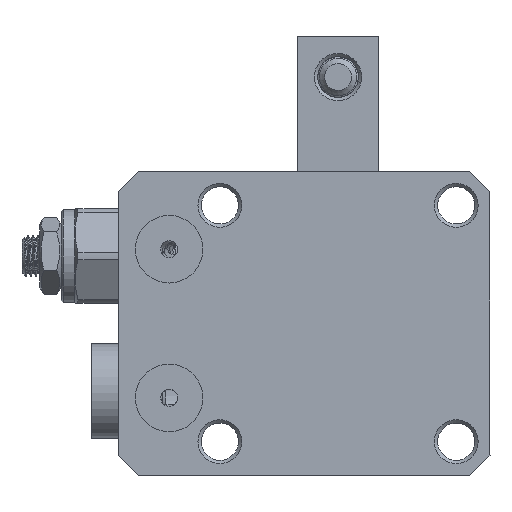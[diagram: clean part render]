
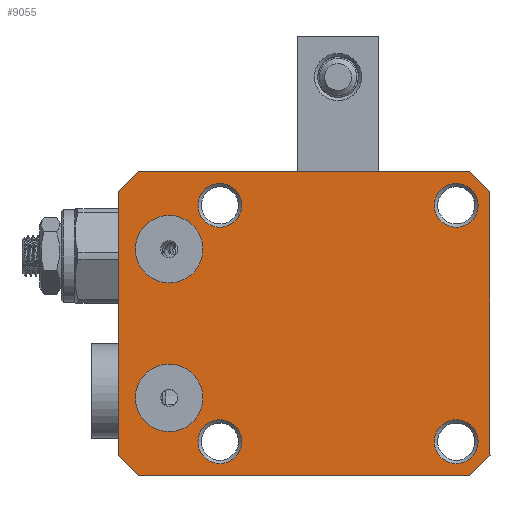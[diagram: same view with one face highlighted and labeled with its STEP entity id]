
A CAD part, front view. The second image highlights one B-rep face of the part: STEP entity #9055.
In plain terms, the highlighted planar face has unit normal (0, -1, 0).
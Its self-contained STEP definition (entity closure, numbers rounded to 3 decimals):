
#657=FACE_BOUND('',#1483,.T.);
#658=FACE_BOUND('',#1484,.T.);
#659=FACE_BOUND('',#1485,.T.);
#660=FACE_BOUND('',#1486,.T.);
#661=FACE_BOUND('',#1487,.T.);
#662=FACE_BOUND('',#1488,.T.);
#737=PLANE('',#9875);
#938=FACE_OUTER_BOUND('',#1482,.T.);
#1482=EDGE_LOOP('',(#6239,#6240,#6241,#6242,#6243,#6244,#6245,#6246));
#1483=EDGE_LOOP('',(#6247));
#1484=EDGE_LOOP('',(#6248));
#1485=EDGE_LOOP('',(#6249));
#1486=EDGE_LOOP('',(#6250));
#1487=EDGE_LOOP('',(#6251));
#1488=EDGE_LOOP('',(#6252));
#2101=LINE('',#13840,#2692);
#2102=LINE('',#13843,#2693);
#2103=LINE('',#13845,#2694);
#2104=LINE('',#13847,#2695);
#2105=LINE('',#13849,#2696);
#2106=LINE('',#13851,#2697);
#2107=LINE('',#13853,#2698);
#2108=LINE('',#13854,#2699);
#2692=VECTOR('',#11066,1000.);
#2693=VECTOR('',#11069,1000.);
#2694=VECTOR('',#11070,1000.);
#2695=VECTOR('',#11071,1000.);
#2696=VECTOR('',#11072,1000.);
#2697=VECTOR('',#11073,1000.);
#2698=VECTOR('',#11074,1000.);
#2699=VECTOR('',#11075,1000.);
#3239=CIRCLE('',#9804,5.);
#3241=CIRCLE('',#9807,5.);
#3244=CIRCLE('',#9811,3.25);
#3247=CIRCLE('',#9815,3.25);
#3250=CIRCLE('',#9819,3.25);
#3253=CIRCLE('',#9823,3.25);
#3737=VERTEX_POINT('',#13505);
#3739=VERTEX_POINT('',#13511);
#3742=VERTEX_POINT('',#13519);
#3745=VERTEX_POINT('',#13527);
#3748=VERTEX_POINT('',#13535);
#3751=VERTEX_POINT('',#13543);
#3796=VERTEX_POINT('',#13822);
#3804=VERTEX_POINT('',#13838);
#3805=VERTEX_POINT('',#13842);
#3806=VERTEX_POINT('',#13844);
#3807=VERTEX_POINT('',#13846);
#3808=VERTEX_POINT('',#13848);
#3809=VERTEX_POINT('',#13850);
#3810=VERTEX_POINT('',#13852);
#4667=EDGE_CURVE('',#3737,#3737,#3239,.T.);
#4670=EDGE_CURVE('',#3739,#3739,#3241,.T.);
#4674=EDGE_CURVE('',#3742,#3742,#3244,.T.);
#4678=EDGE_CURVE('',#3745,#3745,#3247,.T.);
#4682=EDGE_CURVE('',#3748,#3748,#3250,.T.);
#4686=EDGE_CURVE('',#3751,#3751,#3253,.T.);
#4758=EDGE_CURVE('',#3796,#3804,#2101,.T.);
#4759=EDGE_CURVE('',#3805,#3796,#2102,.T.);
#4760=EDGE_CURVE('',#3804,#3806,#2103,.T.);
#4761=EDGE_CURVE('',#3806,#3807,#2104,.T.);
#4762=EDGE_CURVE('',#3807,#3808,#2105,.T.);
#4763=EDGE_CURVE('',#3808,#3809,#2106,.T.);
#4764=EDGE_CURVE('',#3809,#3810,#2107,.T.);
#4765=EDGE_CURVE('',#3810,#3805,#2108,.T.);
#6239=ORIENTED_EDGE('',*,*,#4759,.T.);
#6240=ORIENTED_EDGE('',*,*,#4758,.T.);
#6241=ORIENTED_EDGE('',*,*,#4760,.T.);
#6242=ORIENTED_EDGE('',*,*,#4761,.T.);
#6243=ORIENTED_EDGE('',*,*,#4762,.T.);
#6244=ORIENTED_EDGE('',*,*,#4763,.T.);
#6245=ORIENTED_EDGE('',*,*,#4764,.T.);
#6246=ORIENTED_EDGE('',*,*,#4765,.T.);
#6247=ORIENTED_EDGE('',*,*,#4667,.T.);
#6248=ORIENTED_EDGE('',*,*,#4670,.T.);
#6249=ORIENTED_EDGE('',*,*,#4674,.T.);
#6250=ORIENTED_EDGE('',*,*,#4678,.T.);
#6251=ORIENTED_EDGE('',*,*,#4682,.T.);
#6252=ORIENTED_EDGE('',*,*,#4686,.T.);
#9055=ADVANCED_FACE('',(#938,#657,#658,#659,#660,#661,#662),#737,.T.);
#9804=AXIS2_PLACEMENT_3D('',#13507,#10887,#10888);
#9807=AXIS2_PLACEMENT_3D('',#13513,#10894,#10895);
#9811=AXIS2_PLACEMENT_3D('',#13521,#10903,#10904);
#9815=AXIS2_PLACEMENT_3D('',#13529,#10912,#10913);
#9819=AXIS2_PLACEMENT_3D('',#13537,#10921,#10922);
#9823=AXIS2_PLACEMENT_3D('',#13545,#10930,#10931);
#9875=AXIS2_PLACEMENT_3D('',#13841,#11067,#11068);
#10887=DIRECTION('center_axis',(0.,1.,0.));
#10888=DIRECTION('ref_axis',(0.,0.,-1.));
#10894=DIRECTION('center_axis',(0.,1.,0.));
#10895=DIRECTION('ref_axis',(0.,0.,-1.));
#10903=DIRECTION('center_axis',(0.,1.,0.));
#10904=DIRECTION('ref_axis',(0.,0.,-1.));
#10912=DIRECTION('center_axis',(0.,1.,0.));
#10913=DIRECTION('ref_axis',(0.,0.,-1.));
#10921=DIRECTION('center_axis',(0.,1.,0.));
#10922=DIRECTION('ref_axis',(0.,0.,-1.));
#10930=DIRECTION('center_axis',(0.,1.,0.));
#10931=DIRECTION('ref_axis',(0.,0.,-1.));
#11066=DIRECTION('',(1.,0.,0.));
#11067=DIRECTION('center_axis',(0.,-1.,0.));
#11068=DIRECTION('ref_axis',(0.,0.,-1.));
#11069=DIRECTION('',(0.707,0.,-0.707));
#11070=DIRECTION('',(0.707,0.,0.707));
#11071=DIRECTION('',(0.,0.,1.));
#11072=DIRECTION('',(-0.707,0.,0.707));
#11073=DIRECTION('',(-1.,0.,0.));
#11074=DIRECTION('',(-0.707,0.,-0.707));
#11075=DIRECTION('',(0.,0.,-1.));
#13505=CARTESIAN_POINT('',(438.13,64.989,16.));
#13507=CARTESIAN_POINT('Origin',(438.13,64.989,11.));
#13511=CARTESIAN_POINT('',(438.13,64.989,-6.));
#13513=CARTESIAN_POINT('Origin',(438.13,64.989,-11.));
#13519=CARTESIAN_POINT('',(480.63,64.989,-14.25));
#13521=CARTESIAN_POINT('Origin',(480.63,64.989,-17.5));
#13527=CARTESIAN_POINT('',(445.63,64.989,-14.25));
#13529=CARTESIAN_POINT('Origin',(445.63,64.989,-17.5));
#13535=CARTESIAN_POINT('',(445.63,64.989,20.75));
#13537=CARTESIAN_POINT('Origin',(445.63,64.989,17.5));
#13543=CARTESIAN_POINT('',(480.63,64.989,20.75));
#13545=CARTESIAN_POINT('Origin',(480.63,64.989,17.5));
#13822=CARTESIAN_POINT('',(433.63,64.989,-22.5));
#13838=CARTESIAN_POINT('',(482.63,64.989,-22.5));
#13840=CARTESIAN_POINT('',(433.63,64.989,-22.5));
#13841=CARTESIAN_POINT('Origin',(430.63,64.989,22.5));
#13842=CARTESIAN_POINT('',(430.63,64.989,-19.5));
#13843=CARTESIAN_POINT('',(430.63,64.989,-19.5));
#13844=CARTESIAN_POINT('',(485.63,64.989,-19.5));
#13845=CARTESIAN_POINT('',(482.63,64.989,-22.5));
#13846=CARTESIAN_POINT('',(485.63,64.989,19.5));
#13847=CARTESIAN_POINT('',(485.63,64.989,22.5));
#13848=CARTESIAN_POINT('',(482.63,64.989,22.5));
#13849=CARTESIAN_POINT('',(485.63,64.989,19.5));
#13850=CARTESIAN_POINT('',(433.63,64.989,22.5));
#13851=CARTESIAN_POINT('',(430.63,64.989,22.5));
#13852=CARTESIAN_POINT('',(430.63,64.989,19.5));
#13853=CARTESIAN_POINT('',(433.63,64.989,22.5));
#13854=CARTESIAN_POINT('',(430.63,64.989,22.5));
